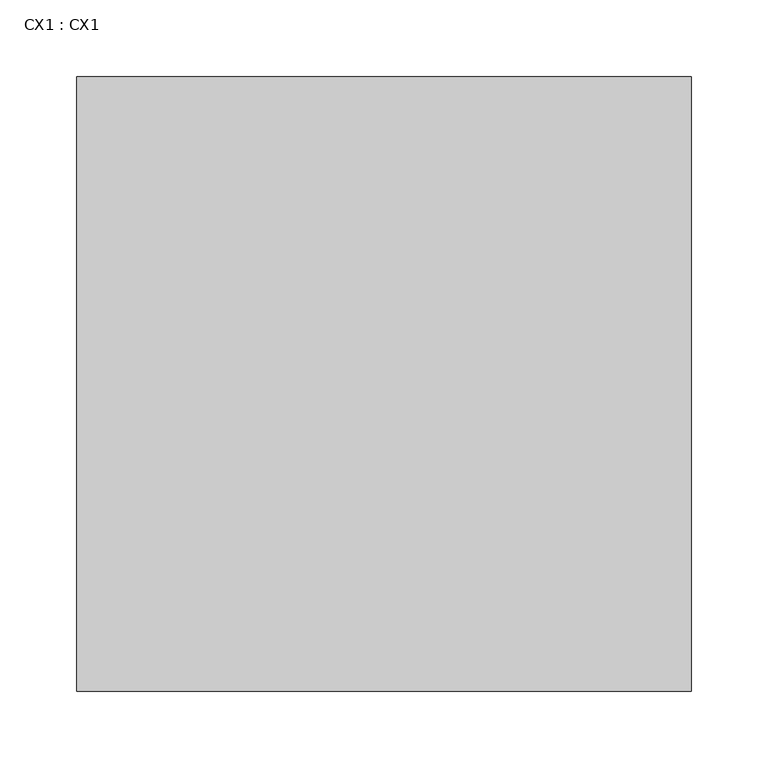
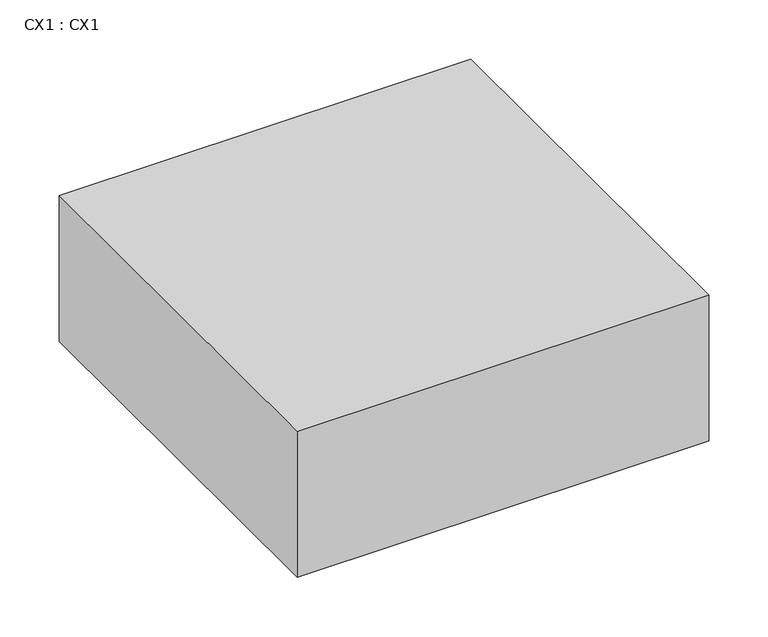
"""IFC4 building model written with IfcOpenShell, lengths in millimetres: proxy geometry, CX1 : CX1."""

import ifcopenshell
import ifcopenshell.guid

model = None  # the IFC model being written
_history = None  # IfcOwnerHistory: only IFC2X3 demands one
_inside = {}  # id of a spatial element -> (the spatial element, [elements in it])
_under = {}  # id of a project, library or spatial element -> (it, [spatial elements below it])
_declared = {}  # id of a project -> (the project, [libraries it declares])
_typed = {}  # id of a type object -> (the type object, [elements of that type])
_made_of = {}  # id of a material, layer set ... -> (it, [elements and type objects made of it])


def new_model(schema):
    """Start an empty IFC model of exactly this schema.

    Asked for "IFC4X3", IfcOpenShell would pick the latest addendum, in which some entities
    have other attributes; the version numbers below select the first issue.
    IFC2X3 requires an IfcOwnerHistory on every rooted entity: one is made here for all.
    """
    global model, _history
    if schema == "IFC4X3":
        model = ifcopenshell.file(schema_version=(4, 3, 0, 0))
    else:
        model = ifcopenshell.file(schema=schema)
    _inside.clear()
    _under.clear()
    _declared.clear()
    _typed.clear()
    _made_of.clear()
    _history = None
    if model.schema == "IFC2X3":
        org = make("IfcOrganization", Name="unknown")
        user = make(
            "IfcPersonAndOrganization",
            ThePerson=make("IfcPerson", FamilyName="unknown"),
            TheOrganization=org,
        )
        app = make(
            "IfcApplication",
            ApplicationDeveloper=org,
            Version="unknown",
            ApplicationFullName="unknown",
            ApplicationIdentifier="unknown",
        )
        _history = make(
            "IfcOwnerHistory",
            OwningUser=user,
            OwningApplication=app,
            ChangeAction="ADDED",
            CreationDate=0,
        )
    return model


def make(cls, **values):
    """One entity of the class cls with the attributes given. An attribute that is None is left unset."""
    return model.create_entity(
        cls, **{name: value for name, value in values.items() if value is not None}
    )


def rooted(cls, **values):
    """An entity with a GlobalId (a new one), such as an element, a storey or a relation."""
    return make(cls, GlobalId=ifcopenshell.guid.new(), OwnerHistory=_history, **values)


def si_unit(unit_type, name, prefix=None):
    """IfcSIUnit, for example si_unit("LENGTHUNIT", "METRE", prefix="MILLI")."""
    return make("IfcSIUnit", UnitType=unit_type, Prefix=prefix, Name=name)


def assignment(units):
    """IfcUnitAssignment: the units of a project."""
    return None if units is None else make("IfcUnitAssignment", Units=units)


def point(xyz):
    """IfcCartesianPoint."""
    return None if xyz is None else make("IfcCartesianPoint", Coordinates=xyz)


def direction(xyz):
    """IfcDirection."""
    return None if xyz is None else make("IfcDirection", DirectionRatios=xyz)


def frame(location, z_axis=None, x_axis=None):
    """IfcAxis2Placement3D, a coordinate frame: its origin and axes. An axis left out is left unset."""
    return make(
        "IfcAxis2Placement3D",
        Location=point(location),
        Axis=direction(z_axis),
        RefDirection=direction(x_axis),
    )


def origin():
    """The frame at (0, 0, 0) with its axes left unset."""
    return frame((0.0, 0.0, 0.0))


def place(relative_to, where):
    """IfcLocalPlacement: puts the frame where relative to a parent placement (None: the world)."""
    return make(
        "IfcLocalPlacement", PlacementRelTo=relative_to, RelativePlacement=where
    )


def context(
    kind, dimensions, precision=None, world=None, true_north=None, identifier=None
):
    """IfcGeometricRepresentationContext, for example the 3D "Model" context."""
    return make(
        "IfcGeometricRepresentationContext",
        ContextIdentifier=identifier,
        ContextType=kind,
        CoordinateSpaceDimension=dimensions,
        Precision=precision,
        WorldCoordinateSystem=world,
        TrueNorth=true_north,
    )


def project(units=None, contexts=None):
    """IfcProject with its units and contexts."""
    return rooted(
        "IfcProject",
        Name="project",
        RepresentationContexts=contexts,
        UnitsInContext=assignment(units),
    )


def spatial(cls, under=None, at=None, **own):
    """A site, building, storey or space (cls), placed at a placement, below another one or the project."""
    s = rooted(cls, ObjectPlacement=at, **own)
    if under is not None:
        _under.setdefault(under.id(), (under, []))[1].append(s)
    return s


def polyline(points):
    """IfcPolyline through the points."""
    return make("IfcPolyline", Points=[point(p) for p in points])


def outline(outer, holes=None, kind="AREA"):
    """IfcArbitraryClosedProfileDef: a profile drawn as a closed curve; with holes, ...WithVoids."""
    if holes is None:
        return make("IfcArbitraryClosedProfileDef", ProfileType=kind, OuterCurve=outer)
    return make(
        "IfcArbitraryProfileDefWithVoids",
        ProfileType=kind,
        OuterCurve=outer,
        InnerCurves=holes,
    )


def extrude(swept, where, along, depth):
    """IfcExtrudedAreaSolid: the profile swept, set in the frame where, extruded along a direction by depth."""
    return make(
        "IfcExtrudedAreaSolid",
        SweptArea=swept,
        Position=where,
        ExtrudedDirection=direction(along),
        Depth=depth,
    )


def shape(context_of_items, identifier, shape_type, items):
    """IfcShapeRepresentation: the items that make up one representation, for example the "Body"."""
    return make(
        "IfcShapeRepresentation",
        ContextOfItems=context_of_items,
        RepresentationIdentifier=identifier,
        RepresentationType=shape_type,
        Items=items,
    )


def source(mapping_origin, context_of_items, identifier, shape_type, items):
    """IfcRepresentationMap: a shape defined once, which mapped items show again and again."""
    return make(
        "IfcRepresentationMap",
        MappingOrigin=mapping_origin,
        MappedRepresentation=shape(context_of_items, identifier, shape_type, items),
    )


def transform(
    local_origin,
    x_axis=None,
    y_axis=None,
    z_axis=None,
    scale=None,
    scale2=None,
    scale3=None,
    uniform=True,
):
    """IfcCartesianTransformationOperator3D, or its non-uniform kind. x_axis, y_axis, z_axis: its Axis1, 2, 3."""
    if uniform:
        return make(
            "IfcCartesianTransformationOperator3D",
            Axis1=direction(x_axis),
            Axis2=direction(y_axis),
            LocalOrigin=point(local_origin),
            Scale=scale,
            Axis3=direction(z_axis),
        )
    return make(
        "IfcCartesianTransformationOperator3DnonUniform",
        Axis1=direction(x_axis),
        Axis2=direction(y_axis),
        LocalOrigin=point(local_origin),
        Scale=scale,
        Axis3=direction(z_axis),
        Scale2=scale2,
        Scale3=scale3,
    )


def mapped(mapping_source, mapping_target):
    """IfcMappedItem: shows the shape of a source again, moved by a transform."""
    return make(
        "IfcMappedItem", MappingSource=mapping_source, MappingTarget=mapping_target
    )


def made_of(thing, what):
    """Note that an element or type object is made of a material, layer set ...; save() writes the relation."""
    if what is not None:
        _made_of.setdefault(what.id(), (what, []))[1].append(thing)
    return thing


def element(
    cls,
    number,
    at=None,
    inside=None,
    cuts=None,
    type_object=None,
    material=None,
    context=None,
    identifier="Body",
    shape_type=None,
    held_by="IfcProductDefinitionShape",
    body=None,
    shapes=None,
    **own,
):
    """One element of the class cls, such as IfcWall. Its Tag is "e" and its number.

    at: its placement. inside: the storey or other place that contains it. cuts: it is an
    opening in that element (IfcRelVoidsElement). A single representation is given by context,
    identifier, shape_type and body (its items); several are given by shapes. held_by: the class
    of the entity that holds the representations. save() writes the other relations.
    """
    e = rooted(cls, Tag="e%d" % number, ObjectPlacement=at, **own)
    if body is not None:
        shapes = [shape(context, identifier, shape_type, body)]
    if shapes is not None:
        e.Representation = make(held_by, Representations=shapes)
    if inside is not None:
        _inside.setdefault(inside.id(), (inside, []))[1].append(e)
    if cuts is not None:
        rooted(
            "IfcRelVoidsElement", RelatingBuildingElement=cuts, RelatedOpeningElement=e
        )
    if type_object is not None:
        _typed.setdefault(type_object.id(), (type_object, []))[1].append(e)
    return made_of(e, material)


def aggregate(whole, parts):
    """IfcRelAggregates: a whole, such as a stair, and the parts it consists of."""
    return rooted("IfcRelAggregates", RelatingObject=whole, RelatedObjects=parts)


def save(model, path):
    """Write the relations noted so far, then the file.

    IfcRelAggregates (storeys below a building ...), IfcRelContainedInSpatialStructure (elements
    in a storey), IfcRelDefinesByType, IfcRelAssociatesMaterial and IfcRelDeclares: one each for
    every whole, place, type object, material and project.
    """
    for whole, parts in _under.values():
        aggregate(whole, parts)
    for where, things in _inside.values():
        rooted(
            "IfcRelContainedInSpatialStructure",
            RelatedElements=things,
            RelatingStructure=where,
        )
    for kind, things in _typed.values():
        rooted("IfcRelDefinesByType", RelatedObjects=things, RelatingType=kind)
    for what, things in _made_of.values():
        rooted("IfcRelAssociatesMaterial", RelatedObjects=things, RelatingMaterial=what)
    for by, libraries in _declared.values():
        rooted("IfcRelDeclares", RelatingContext=by, RelatedDefinitions=libraries)
    model.write(path)


def cx1_cx1_dd6e3acf(model_context):
    return source(origin(), model_context, "Body", "SweptSolid", [
        extrude(outline(polyline([(11040.5, 29302.8), (11440.5, 29302.8), (11440.5, 28902.8), (11040.5, 28902.8), (11040.5, 29302.8)])), frame((0.0, 0.0, 2870.0), z_axis=(0.0, 0.0, 1.0), x_axis=(1.0, 0.0, 0.0)), (0.0, 0.0, 1.0), 150.0),
    ])


if __name__ == "__main__":
    model = new_model("IFC4")
    model_context = context("Model", 3, world=origin())
    ifc_project = project(units=[si_unit("LENGTHUNIT", "METRE", prefix="MILLI")], contexts=[model_context])
    site = spatial("IfcSite", under=ifc_project)
    building = spatial("IfcBuilding", under=site)
    placement = place(None, origin())
    cx1_cx1_shape = cx1_cx1_dd6e3acf(model_context)
    element("IfcBuildingElementProxy", 1, Name="CX1 : CX1", ObjectType="CX1 : CX1", at=placement, inside=building, context=model_context, shape_type="MappedRepresentation", body=[
        mapped(cx1_cx1_shape, transform((0.0, 0.0, 0.0), x_axis=(1.0, 0.0, 0.0), y_axis=(0.0, 1.0, 0.0), z_axis=(0.0, 0.0, 1.0))),
    ])
    save(model, "model.ifc")
